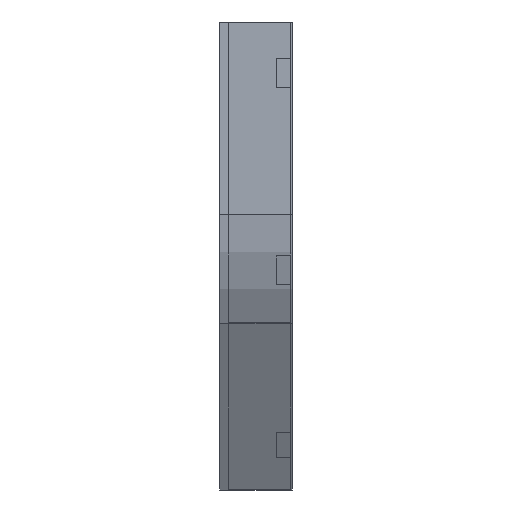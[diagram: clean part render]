
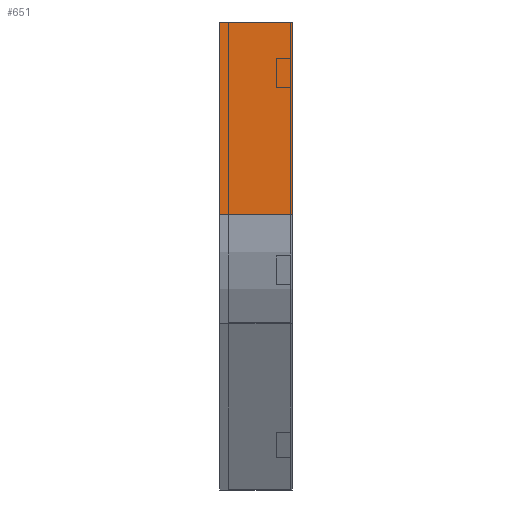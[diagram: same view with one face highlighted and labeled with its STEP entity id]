
A CAD part, left-side view. The second image highlights one B-rep face of the part: STEP entity #651.
In plain terms, the highlighted planar face has unit normal (-1, 0, 0).
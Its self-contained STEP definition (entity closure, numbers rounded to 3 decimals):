
#52 = CARTESIAN_POINT ( 'NONE',  ( 0., 0., 0. ) ) ;
#105 = VERTEX_POINT ( 'NONE', #934 ) ;
#165 = VERTEX_POINT ( 'NONE', #981 ) ;
#200 = PLANE ( 'NONE',  #587 ) ;
#206 = EDGE_CURVE ( 'NONE', #741, #105, #563, .T. ) ;
#236 = CARTESIAN_POINT ( 'NONE',  ( 0., 100., 0. ) ) ;
#255 = VECTOR ( 'NONE', #559, 1000. ) ;
#471 = DIRECTION ( 'NONE',  ( 1., 0., 0. ) ) ;
#491 = DIRECTION ( 'NONE',  ( 0., 0., -1. ) ) ;
#519 = EDGE_CURVE ( 'NONE', #741, #165, #1542, .T. ) ;
#559 = DIRECTION ( 'NONE',  ( 0., 0., -1. ) ) ;
#563 = LINE ( 'NONE', #820, #940 ) ;
#587 = AXIS2_PLACEMENT_3D ( 'NONE', #52, #471, #783 ) ;
#623 = DIRECTION ( 'NONE',  ( 0., -1., 0. ) ) ;
#651 = ADVANCED_FACE ( 'NONE', ( #908 ), #200, .F. ) ;
#666 = EDGE_LOOP ( 'NONE', ( #900, #1596, #821, #1625 ) ) ;
#673 = EDGE_CURVE ( 'NONE', #105, #916, #1793, .T. ) ;
#676 = VECTOR ( 'NONE', #623, 1000. ) ;
#741 = VERTEX_POINT ( 'NONE', #942 ) ;
#783 = DIRECTION ( 'NONE',  ( 0., 0., -1. ) ) ;
#820 = CARTESIAN_POINT ( 'NONE',  ( 0., 0., 0. ) ) ;
#821 = ORIENTED_EDGE ( 'NONE', *, *, #519, .T. ) ;
#900 = ORIENTED_EDGE ( 'NONE', *, *, #673, .F. ) ;
#908 = FACE_OUTER_BOUND ( 'NONE', #666, .T. ) ;
#916 = VERTEX_POINT ( 'NONE', #1853 ) ;
#934 = CARTESIAN_POINT ( 'NONE',  ( 0., 0., 0. ) ) ;
#940 = VECTOR ( 'NONE', #1545, 1000. ) ;
#942 = CARTESIAN_POINT ( 'NONE',  ( 0., 100., 0. ) ) ;
#981 = CARTESIAN_POINT ( 'NONE',  ( 0., 100., -264.359 ) ) ;
#1126 = EDGE_CURVE ( 'NONE', #165, #916, #1188, .T. ) ;
#1188 = LINE ( 'NONE', #1203, #676 ) ;
#1203 = CARTESIAN_POINT ( 'NONE',  ( 0., 0., -264.359 ) ) ;
#1363 = CARTESIAN_POINT ( 'NONE',  ( 0., 0., 0. ) ) ;
#1542 = LINE ( 'NONE', #236, #255 ) ;
#1545 = DIRECTION ( 'NONE',  ( 0., -1., 0. ) ) ;
#1596 = ORIENTED_EDGE ( 'NONE', *, *, #206, .F. ) ;
#1625 = ORIENTED_EDGE ( 'NONE', *, *, #1126, .T. ) ;
#1628 = VECTOR ( 'NONE', #491, 1000. ) ;
#1793 = LINE ( 'NONE', #1363, #1628 ) ;
#1853 = CARTESIAN_POINT ( 'NONE',  ( 0., 0., -264.359 ) ) ;
